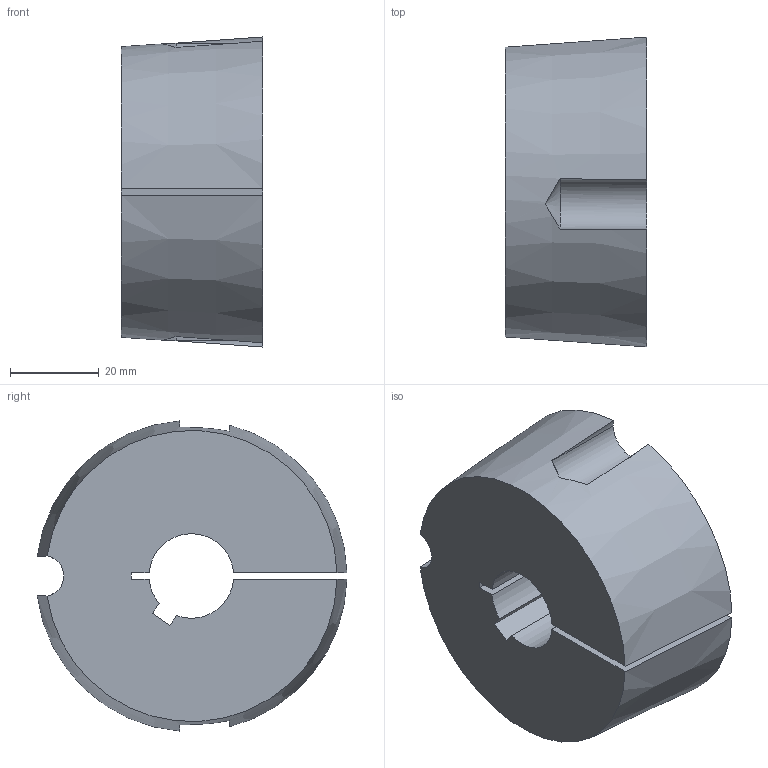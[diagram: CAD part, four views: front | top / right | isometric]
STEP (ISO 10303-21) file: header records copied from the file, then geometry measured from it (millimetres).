
FILE_DESCRIPTION( ( '' ), '1' );
FILE_NAME( 'C:/Users/StangenbergN/Desktop/06.02.2019_steps/6225051905.stp', '2019-02-06T20:00:36', ( '' ), ( '' ), ' ', ' ', ' ' );
FILE_SCHEMA( ( 'CONFIG_CONTROL_DESIGN' ) );
Length unit declared in the file: millimetre
Products named in the file (1): 1
Bounding box: 31.8 x 69.72 x 69.81 mm (x, y, z)
Volume: 100380.4 mm3; surface area: 17452.2 mm2
Topology: 1 solids, 1 shells, 28 faces, 76 edges, 50 vertices
Faces by surface type: cylinder 12, plane 10, cone 6
Entity records: 1106 total; most frequent: CARTESIAN_POINT 355, ORIENTED_EDGE 152, DIRECTION 148, EDGE_CURVE 76, AXIS2_PLACEMENT_3D 57, VERTEX_POINT 50, LINE 34, VECTOR 34
